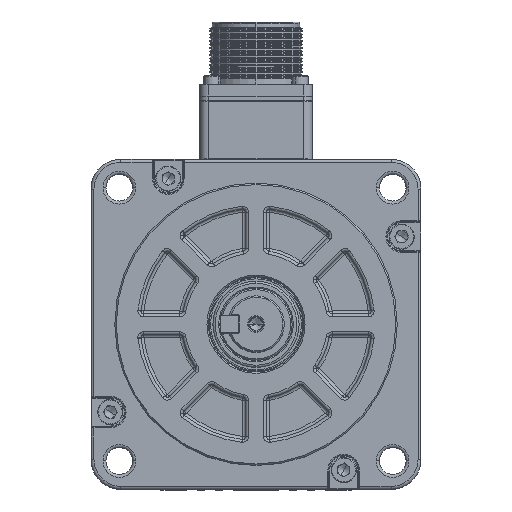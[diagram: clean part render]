
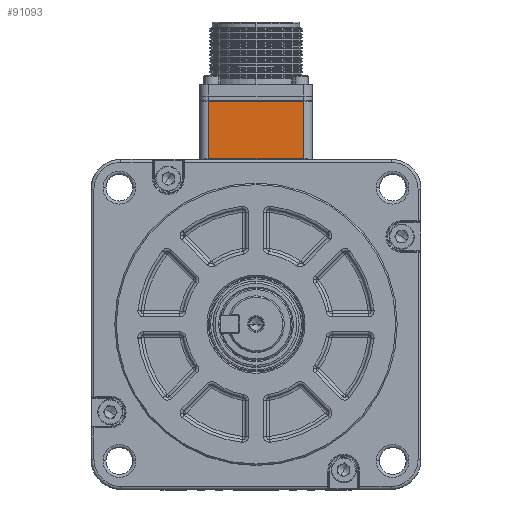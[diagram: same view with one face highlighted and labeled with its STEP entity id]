
A CAD part, top view. The second image highlights one B-rep face of the part: STEP entity #91093.
In plain terms, the highlighted planar face has unit normal (0, 0, 1) as drawn and (1, 0, 0) by its records, which use the part's own axes.
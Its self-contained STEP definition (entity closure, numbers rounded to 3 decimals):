
#5754 = LINE ( 'NONE', #22219, #66520 ) ;
#14344 = DIRECTION ( 'NONE',  ( 0., -1., 0. ) ) ;
#16265 = CARTESIAN_POINT ( 'NONE',  ( 19., 16., 0. ) ) ;
#22219 = CARTESIAN_POINT ( 'NONE',  ( 19., -19., 0. ) ) ;
#30739 = AXIS2_PLACEMENT_3D ( 'NONE', #77029, #37048, #75713 ) ;
#31126 = LINE ( 'NONE', #96082, #37266 ) ;
#31409 = VECTOR ( 'NONE', #89135, 1000. ) ;
#34932 = VECTOR ( 'NONE', #14344, 1000. ) ;
#37048 = DIRECTION ( 'NONE',  ( -1., 0., 0. ) ) ;
#37266 = VECTOR ( 'NONE', #50548, 1000. ) ;
#37517 = CARTESIAN_POINT ( 'NONE',  ( 19., -19., 19.7 ) ) ;
#39546 = VERTEX_POINT ( 'NONE', #61884 ) ;
#43251 = ORIENTED_EDGE ( 'NONE', *, *, #62523, .T. ) ;
#46417 = VERTEX_POINT ( 'NONE', #16265 ) ;
#49602 = LINE ( 'NONE', #37517, #34932 ) ;
#50413 = CARTESIAN_POINT ( 'NONE',  ( 19., -16., 20. ) ) ;
#50548 = DIRECTION ( 'NONE',  ( 0., 0., 1. ) ) ;
#53187 = DIRECTION ( 'NONE',  ( 0., 1., 0. ) ) ;
#60820 = PLANE ( 'NONE',  #30739 ) ;
#61884 = CARTESIAN_POINT ( 'NONE',  ( 19., -16., 0. ) ) ;
#62523 = EDGE_CURVE ( 'NONE', #80415, #68190, #49602, .T. ) ;
#66520 = VECTOR ( 'NONE', #53187, 1000. ) ;
#68190 = VERTEX_POINT ( 'NONE', #77506 ) ;
#68667 = ORIENTED_EDGE ( 'NONE', *, *, #70649, .T. ) ;
#70649 = EDGE_CURVE ( 'NONE', #46417, #80415, #31126, .T. ) ;
#70873 = CARTESIAN_POINT ( 'NONE',  ( 19., 16., 19.7 ) ) ;
#75086 = LINE ( 'NONE', #50413, #31409 ) ;
#75713 = DIRECTION ( 'NONE',  ( 0., 0., 1. ) ) ;
#77029 = CARTESIAN_POINT ( 'NONE',  ( 19., -19., 20. ) ) ;
#77506 = CARTESIAN_POINT ( 'NONE',  ( 19., -16., 19.7 ) ) ;
#78500 = EDGE_LOOP ( 'NONE', ( #68667, #43251, #84116, #90729 ) ) ;
#80415 = VERTEX_POINT ( 'NONE', #70873 ) ;
#81204 = EDGE_CURVE ( 'NONE', #68190, #39546, #75086, .T. ) ;
#82989 = EDGE_CURVE ( 'NONE', #39546, #46417, #5754, .T. ) ;
#84116 = ORIENTED_EDGE ( 'NONE', *, *, #81204, .T. ) ;
#89135 = DIRECTION ( 'NONE',  ( 0., 0., -1. ) ) ;
#90729 = ORIENTED_EDGE ( 'NONE', *, *, #82989, .T. ) ;
#91093 = ADVANCED_FACE ( 'NONE', ( #91513 ), #60820, .F. ) ;
#91513 = FACE_OUTER_BOUND ( 'NONE', #78500, .T. ) ;
#96082 = CARTESIAN_POINT ( 'NONE',  ( 19., 16., 20. ) ) ;
